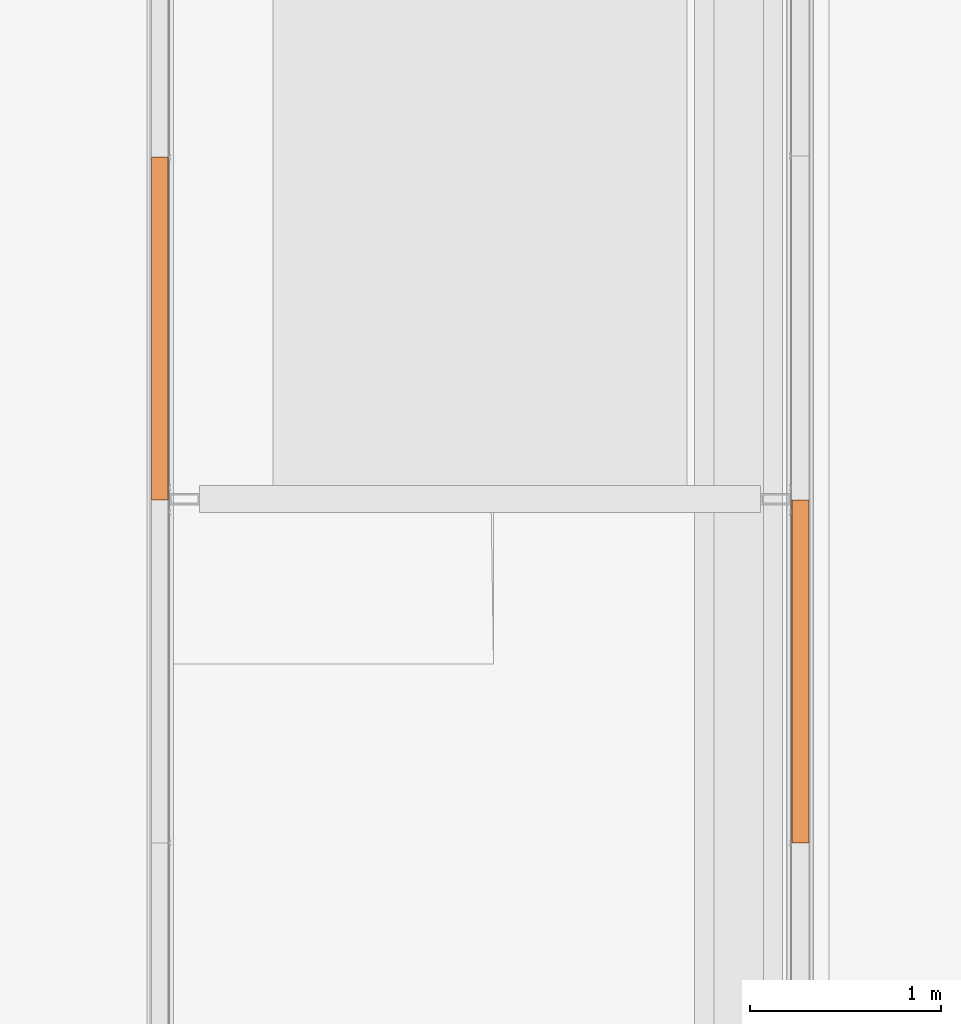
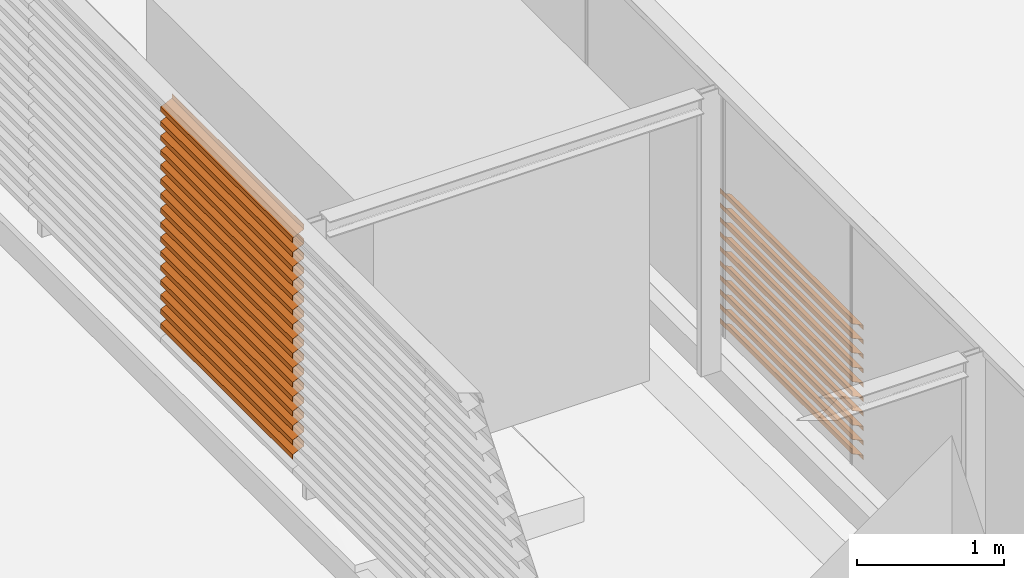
# One storey, part 30 of 32: 26 proxies.
"""IFC2X3 building model written with IfcOpenShell, lengths in millimetres."""

from ifc_helpers import new_model, entity, si_unit, converted_unit, derived_unit, direction, frame, origin, place, context, subcontext, project, spatial, faceted_brep, type_object, element, save


model = new_model("IFC2X3")

# Units and contexts
model_context = context("Model", 3, precision=0.01, world=origin(), true_north=direction((6.123031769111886e-17, 1.0)))
body_context = subcontext(model_context, "Body", "Model", "MODEL_VIEW")
ifc_project = project(units=[si_unit("LENGTHUNIT", "METRE", prefix="MILLI"), si_unit("AREAUNIT", "SQUARE_METRE"), si_unit("VOLUMEUNIT", "CUBIC_METRE"), converted_unit("PLANEANGLEUNIT", "DEGREE", entity("IfcRatioMeasure", 0.017453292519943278), si_unit("PLANEANGLEUNIT", "RADIAN"), dimensions=[0, 0, 0, 0, 0, 0, 0]), si_unit("MASSUNIT", "GRAM", prefix="KILO"), derived_unit("MASSDENSITYUNIT", [(si_unit("MASSUNIT", "GRAM", prefix="KILO"), 1), (si_unit("LENGTHUNIT", "METRE"), -3)]), derived_unit("IONCONCENTRATIONUNIT", [(si_unit("MASSUNIT", "GRAM", prefix="KILO"), 1), (si_unit("LENGTHUNIT", "METRE"), -3)]), derived_unit("MOMENTOFINERTIAUNIT", [(si_unit("LENGTHUNIT", "METRE"), 4)]), si_unit("TIMEUNIT", "SECOND"), si_unit("FREQUENCYUNIT", "HERTZ"), si_unit("THERMODYNAMICTEMPERATUREUNIT", "DEGREE_CELSIUS"), derived_unit("THERMALTRANSMITTANCEUNIT", [(si_unit("MASSUNIT", "GRAM", prefix="KILO"), 1), (si_unit("THERMODYNAMICTEMPERATUREUNIT", "KELVIN"), -1), (si_unit("TIMEUNIT", "SECOND"), -3)]), derived_unit("THERMALCONDUCTANCEUNIT", [(si_unit("MASSUNIT", "GRAM", prefix="KILO"), 1), (si_unit("THERMODYNAMICTEMPERATUREUNIT", "KELVIN"), -1), (si_unit("TIMEUNIT", "SECOND"), -3), (si_unit("LENGTHUNIT", "METRE"), 1)]), derived_unit("VOLUMETRICFLOWRATEUNIT", [(si_unit("LENGTHUNIT", "METRE"), 3), (si_unit("TIMEUNIT", "SECOND"), -1)]), derived_unit("MASSFLOWRATEUNIT", [(si_unit("MASSUNIT", "GRAM", prefix="KILO"), 1), (si_unit("TIMEUNIT", "SECOND"), -1)]), derived_unit("ROTATIONALFREQUENCYUNIT", [(si_unit("TIMEUNIT", "SECOND"), -1)]), si_unit("ELECTRICCURRENTUNIT", "AMPERE"), si_unit("ELECTRICVOLTAGEUNIT", "VOLT"), si_unit("POWERUNIT", "WATT"), si_unit("FORCEUNIT", "NEWTON", prefix="KILO"), si_unit("ILLUMINANCEUNIT", "LUX"), si_unit("LUMINOUSFLUXUNIT", "LUMEN"), si_unit("LUMINOUSINTENSITYUNIT", "CANDELA"), derived_unit("USERDEFINED", [(si_unit("MASSUNIT", "GRAM", prefix="KILO"), -1), (si_unit("LENGTHUNIT", "METRE"), -2), (si_unit("TIMEUNIT", "SECOND"), 3), (si_unit("LUMINOUSFLUXUNIT", "LUMEN"), 1)]), derived_unit("USERDEFINED", [(si_unit("MASSUNIT", "GRAM", prefix="KILO"), 1), (si_unit("TIMEUNIT", "SECOND"), -3), (si_unit("LENGTHUNIT", "METRE"), 3), (si_unit("ELECTRICCURRENTUNIT", "AMPERE"), -2)]), derived_unit("SOUNDPOWERUNIT", [(si_unit("MASSUNIT", "GRAM", prefix="KILO"), 1), (si_unit("TIMEUNIT", "SECOND"), -3), (si_unit("LENGTHUNIT", "METRE"), 2)]), derived_unit("SOUNDPRESSUREUNIT", [(si_unit("MASSUNIT", "GRAM", prefix="KILO"), 1), (si_unit("LENGTHUNIT", "METRE"), -1), (si_unit("TIMEUNIT", "SECOND"), -2)]), derived_unit("LINEARVELOCITYUNIT", [(si_unit("LENGTHUNIT", "METRE"), 1), (si_unit("TIMEUNIT", "SECOND"), -1)]), si_unit("PRESSUREUNIT", "PASCAL"), derived_unit("USERDEFINED", [(si_unit("MASSUNIT", "GRAM", prefix="KILO"), 1), (si_unit("LENGTHUNIT", "METRE"), -2), (si_unit("TIMEUNIT", "SECOND"), -2)]), derived_unit("LINEARFORCEUNIT", [(si_unit("MASSUNIT", "GRAM", prefix="KILO"), 1), (si_unit("TIMEUNIT", "SECOND"), -2)]), derived_unit("PLANARFORCEUNIT", [(si_unit("MASSUNIT", "GRAM", prefix="KILO"), 1), (si_unit("LENGTHUNIT", "METRE"), -1), (si_unit("TIMEUNIT", "SECOND"), -2)]), derived_unit("SPECIFICHEATCAPACITYUNIT", [(si_unit("THERMODYNAMICTEMPERATUREUNIT", "KELVIN"), -1), (si_unit("LENGTHUNIT", "METRE"), 2), (si_unit("TIMEUNIT", "SECOND"), -2)]), derived_unit("HEATINGVALUEUNIT", [(si_unit("LENGTHUNIT", "METRE"), 2), (si_unit("TIMEUNIT", "SECOND"), -2)]), derived_unit("VAPORPERMEABILITYUNIT", [(si_unit("LENGTHUNIT", "METRE"), -1), (si_unit("TIMEUNIT", "SECOND"), 1)]), derived_unit("DYNAMICVISCOSITYUNIT", [(si_unit("MASSUNIT", "GRAM", prefix="KILO"), 1), (si_unit("TIMEUNIT", "SECOND"), -1), (si_unit("LENGTHUNIT", "METRE"), -1)]), derived_unit("THERMALEXPANSIONCOEFFICIENTUNIT", [(si_unit("THERMODYNAMICTEMPERATUREUNIT", "KELVIN"), -1)]), derived_unit("MODULUSOFELASTICITYUNIT", [(si_unit("MASSUNIT", "GRAM", prefix="KILO"), 1), (si_unit("LENGTHUNIT", "METRE"), -1), (si_unit("TIMEUNIT", "SECOND"), -2)]), derived_unit("ISOTHERMALMOISTURECAPACITYUNIT", [(si_unit("LENGTHUNIT", "METRE"), 3), (si_unit("MASSUNIT", "GRAM", prefix="KILO"), -1)]), derived_unit("MOISTUREDIFFUSIVITYUNIT", [(si_unit("TIMEUNIT", "SECOND"), -1), (si_unit("LENGTHUNIT", "METRE"), 2)])], contexts=[model_context])

# Site, building, storey
site_placement = place(None, frame((0.0, 300.0, 0.0)))
site = spatial("IfcSite", under=ifc_project, at=site_placement, Name="<Kadastrale nummers>", CompositionType="ELEMENT")
building_placement = place(site_placement, origin())
building = spatial("IfcBuilding", under=site, at=building_placement, CompositionType="ELEMENT")
storey_placement = place(building_placement, frame((0.0, 0.0, 7150.000035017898)))
storey = spatial("IfcBuildingStorey", under=building, at=storey_placement, Name="02 tweede verdieping", CompositionType="ELEMENT", Elevation=7150.000035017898)

# Proxies
building_element_proxy_type_1 = type_object("IfcBuildingElementProxyType", Name="6286753", PredefinedType="NOTDEFINED")
proxy_1_placement = place(storey_placement, frame((41678.0, 37197.49999984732, 1580.0)))
element("IfcBuildingElementProxy", 1, at=proxy_1_placement, inside=storey, type_object=building_element_proxy_type_1, Name="6286753", context=body_context, shape_type="Brep", body=[
    faceted_brep([(90.0, 1797.5000001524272, 40.0), (90.0, 1797.5000001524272, 0.0), (88.0, 1797.5000001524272, 1.3490170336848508), (88.0, 1797.5000001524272, 38.725859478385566), (0.0, 1797.5000001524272, 79.7609333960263), (0.0, 1797.5000001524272, 120.0), (2.0, 1797.5000001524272, 120.0), (2.0, 1797.5000001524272, 81.03507391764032), (90.0, 0.0, 40.0), (2.0, 0.0, 81.0350739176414), (2.0, 0.0, 120.0), (0.0, 0.0, 120.0), (0.0, 0.0, 79.76093339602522), (88.0, 0.0, 38.72585947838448), (88.0, 0.0, 1.3490170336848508), (90.0, 0.0, 0.0)], [[[0, 1, 2, 3, 4, 5, 6, 7]], [[8, 9, 10, 11, 12, 13, 14, 15]], [[0, 7, 9, 8]], [[7, 6, 10, 9]], [[6, 5, 11, 10]], [[5, 4, 12, 11]], [[4, 3, 13, 12]], [[3, 2, 14, 13]], [[2, 1, 15, 14]], [[1, 0, 8, 15]]]),
])
building_element_proxy_type_2 = type_object("IfcBuildingElementProxyType", Name="6286754", PredefinedType="NOTDEFINED")
proxy_2_placement = place(storey_placement, frame((41678.0, 37197.49999984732, 1460.0)))
element("IfcBuildingElementProxy", 2, at=proxy_2_placement, inside=storey, type_object=building_element_proxy_type_2, Name="6286754", context=body_context, shape_type="Brep", body=[
    faceted_brep([(90.0, 1797.5000001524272, 40.0), (90.0, 1797.5000001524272, 0.0), (88.0, 1797.5000001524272, 1.3490170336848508), (88.0, 1797.5000001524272, 38.725859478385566), (0.0, 1797.5000001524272, 79.7609333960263), (0.0, 1797.5000001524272, 120.0), (2.0, 1797.5000001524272, 120.0), (2.0, 1797.5000001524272, 81.03507391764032), (90.0, 0.0, 40.0), (2.0, 0.0, 81.03507391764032), (2.0, 0.0, 120.0), (0.0, 0.0, 120.0), (0.0, 0.0, 79.76093339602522), (88.0, 0.0, 38.72585947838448), (88.0, 0.0, 1.3490170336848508), (90.0, 0.0, 0.0)], [[[0, 1, 2, 3, 4, 5, 6, 7]], [[8, 9, 10, 11, 12, 13, 14, 15]], [[0, 7, 9, 8]], [[7, 6, 10, 9]], [[6, 5, 11, 10]], [[5, 4, 12, 11]], [[4, 3, 13, 12]], [[3, 2, 14, 13]], [[2, 1, 15, 14]], [[1, 0, 8, 15]]]),
])
building_element_proxy_type_3 = type_object("IfcBuildingElementProxyType", Name="6286755", PredefinedType="NOTDEFINED")
proxy_3_placement = place(storey_placement, frame((41678.0, 37197.49999984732, 1340.0)))
element("IfcBuildingElementProxy", 3, at=proxy_3_placement, inside=storey, type_object=building_element_proxy_type_3, Name="6286755", context=body_context, shape_type="Brep", body=[
    faceted_brep([(90.0, 1797.5000001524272, 40.0), (90.0, 1797.5000001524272, 0.0), (88.0, 1797.5000001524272, 1.3490170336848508), (88.0, 1797.5000001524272, 38.725859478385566), (0.0, 1797.5000001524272, 79.7609333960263), (0.0, 1797.5000001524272, 120.0), (2.0, 1797.5000001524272, 120.0), (2.0, 1797.5000001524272, 81.03507391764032), (90.0, 0.0, 40.0), (2.0, 0.0, 81.0350739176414), (2.0, 0.0, 120.0), (0.0, 0.0, 120.0), (0.0, 0.0, 79.76093339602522), (88.0, 0.0, 38.72585947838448), (88.0, 0.0, 1.3490170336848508), (90.0, 0.0, 0.0)], [[[0, 1, 2, 3, 4, 5, 6, 7]], [[8, 9, 10, 11, 12, 13, 14, 15]], [[0, 7, 9, 8]], [[7, 6, 10, 9]], [[6, 5, 11, 10]], [[5, 4, 12, 11]], [[4, 3, 13, 12]], [[3, 2, 14, 13]], [[2, 1, 15, 14]], [[1, 0, 8, 15]]]),
])
building_element_proxy_type_4 = type_object("IfcBuildingElementProxyType", Name="6286756", PredefinedType="NOTDEFINED")
proxy_4_placement = place(storey_placement, frame((41678.0, 37197.49999984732, 1220.0)))
element("IfcBuildingElementProxy", 4, at=proxy_4_placement, inside=storey, type_object=building_element_proxy_type_4, Name="6286756", context=body_context, shape_type="Brep", body=[
    faceted_brep([(90.0, 1797.5000001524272, 40.0), (90.0, 1797.5000001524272, 0.0), (88.0, 1797.5000001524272, 1.3490170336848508), (88.0, 1797.5000001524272, 38.725859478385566), (0.0, 1797.5000001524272, 79.7609333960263), (0.0, 1797.5000001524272, 120.0), (2.0, 1797.5000001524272, 120.0), (2.0, 1797.5000001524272, 81.03507391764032), (90.0, 0.0, 40.0), (2.0, 0.0, 81.0350739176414), (2.0, 0.0, 120.0), (0.0, 0.0, 120.0), (0.0, 0.0, 79.76093339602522), (88.0, 0.0, 38.72585947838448), (88.0, 0.0, 1.3490170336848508), (90.0, 0.0, 0.0)], [[[0, 1, 2, 3, 4, 5, 6, 7]], [[8, 9, 10, 11, 12, 13, 14, 15]], [[0, 7, 9, 8]], [[7, 6, 10, 9]], [[6, 5, 11, 10]], [[5, 4, 12, 11]], [[4, 3, 13, 12]], [[3, 2, 14, 13]], [[2, 1, 15, 14]], [[1, 0, 8, 15]]]),
])
building_element_proxy_type_5 = type_object("IfcBuildingElementProxyType", Name="6286757", PredefinedType="NOTDEFINED")
proxy_5_placement = place(storey_placement, frame((41678.0, 37197.49999984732, 1100.0)))
element("IfcBuildingElementProxy", 5, at=proxy_5_placement, inside=storey, type_object=building_element_proxy_type_5, Name="6286757", context=body_context, shape_type="Brep", body=[
    faceted_brep([(90.0, 1797.5000001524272, 40.0), (90.0, 1797.5000001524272, 0.0), (88.0, 1797.5000001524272, 1.3490170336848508), (88.0, 1797.5000001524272, 38.725859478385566), (0.0, 1797.5000001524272, 79.7609333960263), (0.0, 1797.5000001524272, 120.0), (2.0, 1797.5000001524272, 120.0), (2.0, 1797.5000001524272, 81.03507391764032), (90.0, 0.0, 40.0), (2.0, 0.0, 81.03507391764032), (2.0, 0.0, 120.0), (0.0, 0.0, 120.0), (0.0, 0.0, 79.76093339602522), (88.0, 0.0, 38.72585947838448), (88.0, 0.0, 1.3490170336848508), (90.0, 0.0, 0.0)], [[[0, 1, 2, 3, 4, 5, 6, 7]], [[8, 9, 10, 11, 12, 13, 14, 15]], [[0, 7, 9, 8]], [[7, 6, 10, 9]], [[6, 5, 11, 10]], [[5, 4, 12, 11]], [[4, 3, 13, 12]], [[3, 2, 14, 13]], [[2, 1, 15, 14]], [[1, 0, 8, 15]]]),
])
building_element_proxy_type_6 = type_object("IfcBuildingElementProxyType", Name="6286758", PredefinedType="NOTDEFINED")
proxy_6_placement = place(storey_placement, frame((41678.0, 37197.49999984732, 980.0)))
element("IfcBuildingElementProxy", 6, at=proxy_6_placement, inside=storey, type_object=building_element_proxy_type_6, Name="6286758", context=body_context, shape_type="Brep", body=[
    faceted_brep([(90.0, 1797.5000001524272, 40.0), (90.0, 1797.5000001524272, 0.0), (88.0, 1797.5000001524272, 1.3490170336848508), (88.0, 1797.5000001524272, 38.725859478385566), (0.0, 1797.5000001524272, 79.7609333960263), (0.0, 1797.5000001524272, 120.0), (2.0, 1797.5000001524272, 120.0), (2.0, 1797.5000001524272, 81.03507391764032), (90.0, 0.0, 40.0), (2.0, 0.0, 81.0350739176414), (2.0, 0.0, 120.0), (0.0, 0.0, 120.0), (0.0, 0.0, 79.76093339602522), (88.0, 0.0, 38.72585947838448), (88.0, 0.0, 1.3490170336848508), (90.0, 0.0, 0.0)], [[[0, 1, 2, 3, 4, 5, 6, 7]], [[8, 9, 10, 11, 12, 13, 14, 15]], [[0, 7, 9, 8]], [[7, 6, 10, 9]], [[6, 5, 11, 10]], [[5, 4, 12, 11]], [[4, 3, 13, 12]], [[3, 2, 14, 13]], [[2, 1, 15, 14]], [[1, 0, 8, 15]]]),
])
building_element_proxy_type_7 = type_object("IfcBuildingElementProxyType", Name="6286759", PredefinedType="NOTDEFINED")
proxy_7_placement = place(storey_placement, frame((41678.0, 37197.49999984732, 860.0)))
element("IfcBuildingElementProxy", 7, at=proxy_7_placement, inside=storey, type_object=building_element_proxy_type_7, Name="6286759", context=body_context, shape_type="Brep", body=[
    faceted_brep([(90.0, 1797.5000001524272, 40.0), (90.0, 1797.5000001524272, 0.0), (88.0, 1797.5000001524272, 1.3490170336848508), (88.0, 1797.5000001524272, 38.725859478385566), (0.0, 1797.5000001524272, 79.7609333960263), (0.0, 1797.5000001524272, 120.0), (2.0, 1797.5000001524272, 120.0), (2.0, 1797.5000001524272, 81.03507391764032), (90.0, 0.0, 40.0), (2.0, 0.0, 81.03507391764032), (2.0, 0.0, 120.0), (0.0, 0.0, 120.0), (0.0, 0.0, 79.76093339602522), (88.0, 0.0, 38.72585947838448), (88.0, 0.0, 1.3490170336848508), (90.0, 0.0, 0.0)], [[[0, 1, 2, 3, 4, 5, 6, 7]], [[8, 9, 10, 11, 12, 13, 14, 15]], [[0, 7, 9, 8]], [[7, 6, 10, 9]], [[6, 5, 11, 10]], [[5, 4, 12, 11]], [[4, 3, 13, 12]], [[3, 2, 14, 13]], [[2, 1, 15, 14]], [[1, 0, 8, 15]]]),
])
building_element_proxy_type_8 = type_object("IfcBuildingElementProxyType", Name="6286760", PredefinedType="NOTDEFINED")
proxy_8_placement = place(storey_placement, frame((41678.0, 37197.49999984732, 740.0)))
element("IfcBuildingElementProxy", 8, at=proxy_8_placement, inside=storey, type_object=building_element_proxy_type_8, Name="6286760", context=body_context, shape_type="Brep", body=[
    faceted_brep([(90.0, 1797.5000001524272, 40.0), (90.0, 1797.5000001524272, 0.0), (88.0, 1797.5000001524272, 1.3490170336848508), (88.0, 1797.5000001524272, 38.725859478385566), (0.0, 1797.5000001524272, 79.7609333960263), (0.0, 1797.5000001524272, 120.0), (2.0, 1797.5000001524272, 120.0), (2.0, 1797.5000001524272, 81.03507391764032), (90.0, 0.0, 40.0), (2.0, 0.0, 81.0350739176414), (2.0, 0.0, 120.0), (0.0, 0.0, 120.0), (0.0, 0.0, 79.76093339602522), (88.0, 0.0, 38.72585947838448), (88.0, 0.0, 1.3490170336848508), (90.0, 0.0, 0.0)], [[[0, 1, 2, 3, 4, 5, 6, 7]], [[8, 9, 10, 11, 12, 13, 14, 15]], [[0, 7, 9, 8]], [[7, 6, 10, 9]], [[6, 5, 11, 10]], [[5, 4, 12, 11]], [[4, 3, 13, 12]], [[3, 2, 14, 13]], [[2, 1, 15, 14]], [[1, 0, 8, 15]]]),
])
building_element_proxy_type_9 = type_object("IfcBuildingElementProxyType", Name="6286761", PredefinedType="NOTDEFINED")
proxy_9_placement = place(storey_placement, frame((41678.0, 37197.49999984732, 620.0)))
element("IfcBuildingElementProxy", 9, at=proxy_9_placement, inside=storey, type_object=building_element_proxy_type_9, Name="6286761", context=body_context, shape_type="Brep", body=[
    faceted_brep([(90.0, 1797.5000001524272, 40.0), (90.0, 1797.5000001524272, 0.0), (88.0, 1797.5000001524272, 1.3490170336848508), (88.0, 1797.5000001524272, 38.725859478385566), (0.0, 1797.5000001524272, 79.7609333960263), (0.0, 1797.5000001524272, 120.0), (2.0, 1797.5000001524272, 120.0), (2.0, 1797.5000001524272, 81.03507391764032), (90.0, 0.0, 40.0), (2.0, 0.0, 81.0350739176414), (2.0, 0.0, 120.0), (0.0, 0.0, 120.0), (0.0, 0.0, 79.76093339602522), (88.0, 0.0, 38.72585947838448), (88.0, 0.0, 1.3490170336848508), (90.0, 0.0, 0.0)], [[[0, 1, 2, 3, 4, 5, 6, 7]], [[8, 9, 10, 11, 12, 13, 14, 15]], [[0, 7, 9, 8]], [[7, 6, 10, 9]], [[6, 5, 11, 10]], [[5, 4, 12, 11]], [[4, 3, 13, 12]], [[3, 2, 14, 13]], [[2, 1, 15, 14]], [[1, 0, 8, 15]]]),
])
building_element_proxy_type_10 = type_object("IfcBuildingElementProxyType", Name="6286762", PredefinedType="NOTDEFINED")
proxy_10_placement = place(storey_placement, frame((41678.0, 37197.49999984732, 500.0)))
element("IfcBuildingElementProxy", 10, at=proxy_10_placement, inside=storey, type_object=building_element_proxy_type_10, Name="6286762", context=body_context, shape_type="Brep", body=[
    faceted_brep([(90.0, 1797.5000001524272, 40.0), (90.0, 1797.5000001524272, 0.0), (88.0, 1797.5000001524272, 1.3490170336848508), (88.0, 1797.5000001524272, 38.725859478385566), (0.0, 1797.5000001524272, 79.7609333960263), (0.0, 1797.5000001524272, 120.0), (2.0, 1797.5000001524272, 120.0), (2.0, 1797.5000001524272, 81.03507391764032), (90.0, 0.0, 40.0), (2.0, 0.0, 81.03507391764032), (2.0, 0.0, 120.0), (0.0, 0.0, 120.0), (0.0, 0.0, 79.76093339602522), (88.0, 0.0, 38.72585947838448), (88.0, 0.0, 1.3490170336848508), (90.0, 0.0, 0.0)], [[[0, 1, 2, 3, 4, 5, 6, 7]], [[8, 9, 10, 11, 12, 13, 14, 15]], [[0, 7, 9, 8]], [[7, 6, 10, 9]], [[6, 5, 11, 10]], [[5, 4, 12, 11]], [[4, 3, 13, 12]], [[3, 2, 14, 13]], [[2, 1, 15, 14]], [[1, 0, 8, 15]]]),
])
building_element_proxy_type_11 = type_object("IfcBuildingElementProxyType", Name="6287223", PredefinedType="NOTDEFINED")
proxy_11_placement = place(storey_placement, frame((38322.0, 38995.0, 2420.0)))
element("IfcBuildingElementProxy", 11, at=proxy_11_placement, inside=storey, type_object=building_element_proxy_type_11, Name="6287223", context=body_context, shape_type="Brep", body=[
    faceted_brep([(0.0, 0.0, 40.0), (0.0, 0.0, 0.0), (2.0, 0.0, 1.3490170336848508), (2.0, 0.0, 38.725859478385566), (90.0, 0.0, 79.7609333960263), (90.0, 0.0, 120.0), (88.0, 0.0, 120.0), (88.0, 0.0, 81.03507391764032), (0.0, 1797.5000001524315, 40.0), (88.0, 1797.5000001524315, 81.0350739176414), (88.0, 1797.5000001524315, 120.0), (90.0, 1797.5000001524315, 120.0), (90.0, 1797.5000001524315, 79.76093339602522), (2.0, 1797.5000001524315, 38.72585947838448), (2.0, 1797.5000001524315, 1.3490170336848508), (0.0, 1797.5000001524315, 0.0)], [[[0, 1, 2, 3, 4, 5, 6, 7]], [[8, 9, 10, 11, 12, 13, 14, 15]], [[0, 7, 9, 8]], [[7, 6, 10, 9]], [[6, 5, 11, 10]], [[5, 4, 12, 11]], [[4, 3, 13, 12]], [[3, 2, 14, 13]], [[2, 1, 15, 14]], [[1, 0, 8, 15]]]),
])
building_element_proxy_type_12 = type_object("IfcBuildingElementProxyType", Name="6287224", PredefinedType="NOTDEFINED")
proxy_12_placement = place(storey_placement, frame((38322.0, 38995.0, 2300.0)))
element("IfcBuildingElementProxy", 12, at=proxy_12_placement, inside=storey, type_object=building_element_proxy_type_12, Name="6287224", context=body_context, shape_type="Brep", body=[
    faceted_brep([(0.0, 0.0, 40.0), (0.0, 0.0, 0.0), (2.0, 0.0, 1.3490170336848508), (2.0, 0.0, 38.725859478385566), (90.0, 0.0, 79.7609333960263), (90.0, 0.0, 120.0), (88.0, 0.0, 120.0), (88.0, 0.0, 81.03507391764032), (0.0, 1797.5000001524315, 40.0), (88.0, 1797.5000001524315, 81.03507391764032), (88.0, 1797.5000001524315, 120.0), (90.0, 1797.5000001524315, 120.0), (90.0, 1797.5000001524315, 79.76093339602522), (2.0, 1797.5000001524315, 38.72585947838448), (2.0, 1797.5000001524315, 1.3490170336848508), (0.0, 1797.5000001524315, 0.0)], [[[0, 1, 2, 3, 4, 5, 6, 7]], [[8, 9, 10, 11, 12, 13, 14, 15]], [[0, 7, 9, 8]], [[7, 6, 10, 9]], [[6, 5, 11, 10]], [[5, 4, 12, 11]], [[4, 3, 13, 12]], [[3, 2, 14, 13]], [[2, 1, 15, 14]], [[1, 0, 8, 15]]]),
])
building_element_proxy_type_13 = type_object("IfcBuildingElementProxyType", Name="6287225", PredefinedType="NOTDEFINED")
proxy_13_placement = place(storey_placement, frame((38322.0, 38995.0, 2180.0)))
element("IfcBuildingElementProxy", 13, at=proxy_13_placement, inside=storey, type_object=building_element_proxy_type_13, Name="6287225", context=body_context, shape_type="Brep", body=[
    faceted_brep([(0.0, 0.0, 40.0), (0.0, 0.0, 0.0), (2.0, 0.0, 1.3490170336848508), (2.0, 0.0, 38.725859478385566), (90.0, 0.0, 79.7609333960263), (90.0, 0.0, 120.0), (88.0, 0.0, 120.0), (88.0, 0.0, 81.03507391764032), (0.0, 1797.5000001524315, 40.0), (88.0, 1797.5000001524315, 81.0350739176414), (88.0, 1797.5000001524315, 120.0), (90.0, 1797.5000001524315, 120.0), (90.0, 1797.5000001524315, 79.76093339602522), (2.0, 1797.5000001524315, 38.72585947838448), (2.0, 1797.5000001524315, 1.3490170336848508), (0.0, 1797.5000001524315, 0.0)], [[[0, 1, 2, 3, 4, 5, 6, 7]], [[8, 9, 10, 11, 12, 13, 14, 15]], [[0, 7, 9, 8]], [[7, 6, 10, 9]], [[6, 5, 11, 10]], [[5, 4, 12, 11]], [[4, 3, 13, 12]], [[3, 2, 14, 13]], [[2, 1, 15, 14]], [[1, 0, 8, 15]]]),
])
building_element_proxy_type_14 = type_object("IfcBuildingElementProxyType", Name="6287226", PredefinedType="NOTDEFINED")
proxy_14_placement = place(storey_placement, frame((38322.0, 38995.0, 2060.0)))
element("IfcBuildingElementProxy", 14, at=proxy_14_placement, inside=storey, type_object=building_element_proxy_type_14, Name="6287226", context=body_context, shape_type="Brep", body=[
    faceted_brep([(0.0, 0.0, 40.0), (0.0, 0.0, 0.0), (2.0, 0.0, 1.3490170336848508), (2.0, 0.0, 38.725859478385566), (90.0, 0.0, 79.7609333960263), (90.0, 0.0, 120.0), (88.0, 0.0, 120.0), (88.0, 0.0, 81.03507391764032), (0.0, 1797.5000001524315, 40.0), (88.0, 1797.5000001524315, 81.0350739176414), (88.0, 1797.5000001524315, 120.0), (90.0, 1797.5000001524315, 120.0), (90.0, 1797.5000001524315, 79.76093339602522), (2.0, 1797.5000001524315, 38.72585947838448), (2.0, 1797.5000001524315, 1.3490170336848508), (0.0, 1797.5000001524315, 0.0)], [[[0, 1, 2, 3, 4, 5, 6, 7]], [[8, 9, 10, 11, 12, 13, 14, 15]], [[0, 7, 9, 8]], [[7, 6, 10, 9]], [[6, 5, 11, 10]], [[5, 4, 12, 11]], [[4, 3, 13, 12]], [[3, 2, 14, 13]], [[2, 1, 15, 14]], [[1, 0, 8, 15]]]),
])
building_element_proxy_type_15 = type_object("IfcBuildingElementProxyType", Name="6287227", PredefinedType="NOTDEFINED")
proxy_15_placement = place(storey_placement, frame((38322.0, 38995.0, 1940.0)))
element("IfcBuildingElementProxy", 15, at=proxy_15_placement, inside=storey, type_object=building_element_proxy_type_15, Name="6287227", context=body_context, shape_type="Brep", body=[
    faceted_brep([(0.0, 0.0, 40.0), (0.0, 0.0, 0.0), (2.0, 0.0, 1.3490170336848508), (2.0, 0.0, 38.725859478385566), (90.0, 0.0, 79.7609333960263), (90.0, 0.0, 120.0), (88.0, 0.0, 120.0), (88.0, 0.0, 81.03507391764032), (0.0, 1797.5000001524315, 40.0), (88.0, 1797.5000001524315, 81.0350739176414), (88.0, 1797.5000001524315, 120.0), (90.0, 1797.5000001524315, 120.0), (90.0, 1797.5000001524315, 79.76093339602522), (2.0, 1797.5000001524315, 38.72585947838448), (2.0, 1797.5000001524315, 1.3490170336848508), (0.0, 1797.5000001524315, 0.0)], [[[0, 1, 2, 3, 4, 5, 6, 7]], [[8, 9, 10, 11, 12, 13, 14, 15]], [[0, 7, 9, 8]], [[7, 6, 10, 9]], [[6, 5, 11, 10]], [[5, 4, 12, 11]], [[4, 3, 13, 12]], [[3, 2, 14, 13]], [[2, 1, 15, 14]], [[1, 0, 8, 15]]]),
])
building_element_proxy_type_16 = type_object("IfcBuildingElementProxyType", Name="6287228", PredefinedType="NOTDEFINED")
proxy_16_placement = place(storey_placement, frame((38322.0, 38995.0, 1820.0)))
element("IfcBuildingElementProxy", 16, at=proxy_16_placement, inside=storey, type_object=building_element_proxy_type_16, Name="6287228", context=body_context, shape_type="Brep", body=[
    faceted_brep([(0.0, 0.0, 40.0), (0.0, 0.0, 0.0), (2.0, 0.0, 1.3490170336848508), (2.0, 0.0, 38.725859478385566), (90.0, 0.0, 79.7609333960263), (90.0, 0.0, 120.0), (88.0, 0.0, 120.0), (88.0, 0.0, 81.03507391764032), (0.0, 1797.5000001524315, 40.0), (88.0, 1797.5000001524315, 81.0350739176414), (88.0, 1797.5000001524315, 120.0), (90.0, 1797.5000001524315, 120.0), (90.0, 1797.5000001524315, 79.76093339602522), (2.0, 1797.5000001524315, 38.72585947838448), (2.0, 1797.5000001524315, 1.3490170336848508), (0.0, 1797.5000001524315, 0.0)], [[[0, 1, 2, 3, 4, 5, 6, 7]], [[8, 9, 10, 11, 12, 13, 14, 15]], [[0, 7, 9, 8]], [[7, 6, 10, 9]], [[6, 5, 11, 10]], [[5, 4, 12, 11]], [[4, 3, 13, 12]], [[3, 2, 14, 13]], [[2, 1, 15, 14]], [[1, 0, 8, 15]]]),
])
building_element_proxy_type_17 = type_object("IfcBuildingElementProxyType", Name="6287229", PredefinedType="NOTDEFINED")
proxy_17_placement = place(storey_placement, frame((38322.0, 38995.0, 1700.0)))
element("IfcBuildingElementProxy", 17, at=proxy_17_placement, inside=storey, type_object=building_element_proxy_type_17, Name="6287229", context=body_context, shape_type="Brep", body=[
    faceted_brep([(0.0, 0.0, 40.0), (0.0, 0.0, 0.0), (2.0, 0.0, 1.3490170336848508), (2.0, 0.0, 38.725859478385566), (90.0, 0.0, 79.7609333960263), (90.0, 0.0, 120.0), (88.0, 0.0, 120.0), (88.0, 0.0, 81.03507391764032), (0.0, 1797.5000001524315, 40.0), (88.0, 1797.5000001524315, 81.03507391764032), (88.0, 1797.5000001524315, 120.0), (90.0, 1797.5000001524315, 120.0), (90.0, 1797.5000001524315, 79.76093339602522), (2.0, 1797.5000001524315, 38.72585947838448), (2.0, 1797.5000001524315, 1.3490170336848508), (0.0, 1797.5000001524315, 0.0)], [[[0, 1, 2, 3, 4, 5, 6, 7]], [[8, 9, 10, 11, 12, 13, 14, 15]], [[0, 7, 9, 8]], [[7, 6, 10, 9]], [[6, 5, 11, 10]], [[5, 4, 12, 11]], [[4, 3, 13, 12]], [[3, 2, 14, 13]], [[2, 1, 15, 14]], [[1, 0, 8, 15]]]),
])
building_element_proxy_type_18 = type_object("IfcBuildingElementProxyType", Name="6287230", PredefinedType="NOTDEFINED")
proxy_18_placement = place(storey_placement, frame((38322.0, 38995.0, 1580.0)))
element("IfcBuildingElementProxy", 18, at=proxy_18_placement, inside=storey, type_object=building_element_proxy_type_18, Name="6287230", context=body_context, shape_type="Brep", body=[
    faceted_brep([(0.0, 0.0, 40.0), (0.0, 0.0, 0.0), (2.0, 0.0, 1.3490170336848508), (2.0, 0.0, 38.725859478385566), (90.0, 0.0, 79.7609333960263), (90.0, 0.0, 120.0), (88.0, 0.0, 120.0), (88.0, 0.0, 81.03507391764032), (0.0, 1797.5000001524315, 40.0), (88.0, 1797.5000001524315, 81.0350739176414), (88.0, 1797.5000001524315, 120.0), (90.0, 1797.5000001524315, 120.0), (90.0, 1797.5000001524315, 79.76093339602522), (2.0, 1797.5000001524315, 38.72585947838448), (2.0, 1797.5000001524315, 1.3490170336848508), (0.0, 1797.5000001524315, 0.0)], [[[0, 1, 2, 3, 4, 5, 6, 7]], [[8, 9, 10, 11, 12, 13, 14, 15]], [[0, 7, 9, 8]], [[7, 6, 10, 9]], [[6, 5, 11, 10]], [[5, 4, 12, 11]], [[4, 3, 13, 12]], [[3, 2, 14, 13]], [[2, 1, 15, 14]], [[1, 0, 8, 15]]]),
])
building_element_proxy_type_19 = type_object("IfcBuildingElementProxyType", Name="6287231", PredefinedType="NOTDEFINED")
proxy_19_placement = place(storey_placement, frame((38322.0, 38995.0, 1460.0)))
element("IfcBuildingElementProxy", 19, at=proxy_19_placement, inside=storey, type_object=building_element_proxy_type_19, Name="6287231", context=body_context, shape_type="Brep", body=[
    faceted_brep([(0.0, 0.0, 40.0), (0.0, 0.0, 0.0), (2.0, 0.0, 1.3490170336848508), (2.0, 0.0, 38.725859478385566), (90.0, 0.0, 79.7609333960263), (90.0, 0.0, 120.0), (88.0, 0.0, 120.0), (88.0, 0.0, 81.03507391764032), (0.0, 1797.5000001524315, 40.0), (88.0, 1797.5000001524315, 81.03507391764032), (88.0, 1797.5000001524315, 120.0), (90.0, 1797.5000001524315, 120.0), (90.0, 1797.5000001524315, 79.76093339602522), (2.0, 1797.5000001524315, 38.72585947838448), (2.0, 1797.5000001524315, 1.3490170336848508), (0.0, 1797.5000001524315, 0.0)], [[[0, 1, 2, 3, 4, 5, 6, 7]], [[8, 9, 10, 11, 12, 13, 14, 15]], [[0, 7, 9, 8]], [[7, 6, 10, 9]], [[6, 5, 11, 10]], [[5, 4, 12, 11]], [[4, 3, 13, 12]], [[3, 2, 14, 13]], [[2, 1, 15, 14]], [[1, 0, 8, 15]]]),
])
building_element_proxy_type_20 = type_object("IfcBuildingElementProxyType", Name="6287232", PredefinedType="NOTDEFINED")
proxy_20_placement = place(storey_placement, frame((38322.0, 38995.0, 1340.0)))
element("IfcBuildingElementProxy", 20, at=proxy_20_placement, inside=storey, type_object=building_element_proxy_type_20, Name="6287232", context=body_context, shape_type="Brep", body=[
    faceted_brep([(0.0, 0.0, 40.0), (0.0, 0.0, 0.0), (2.0, 0.0, 1.3490170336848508), (2.0, 0.0, 38.725859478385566), (90.0, 0.0, 79.7609333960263), (90.0, 0.0, 120.0), (88.0, 0.0, 120.0), (88.0, 0.0, 81.03507391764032), (0.0, 1797.5000001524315, 40.0), (88.0, 1797.5000001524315, 81.0350739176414), (88.0, 1797.5000001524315, 120.0), (90.0, 1797.5000001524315, 120.0), (90.0, 1797.5000001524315, 79.76093339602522), (2.0, 1797.5000001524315, 38.72585947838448), (2.0, 1797.5000001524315, 1.3490170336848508), (0.0, 1797.5000001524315, 0.0)], [[[0, 1, 2, 3, 4, 5, 6, 7]], [[8, 9, 10, 11, 12, 13, 14, 15]], [[0, 7, 9, 8]], [[7, 6, 10, 9]], [[6, 5, 11, 10]], [[5, 4, 12, 11]], [[4, 3, 13, 12]], [[3, 2, 14, 13]], [[2, 1, 15, 14]], [[1, 0, 8, 15]]]),
])
building_element_proxy_type_21 = type_object("IfcBuildingElementProxyType", Name="6287233", PredefinedType="NOTDEFINED")
proxy_21_placement = place(storey_placement, frame((38322.0, 38995.0, 1220.0)))
element("IfcBuildingElementProxy", 21, at=proxy_21_placement, inside=storey, type_object=building_element_proxy_type_21, Name="6287233", context=body_context, shape_type="Brep", body=[
    faceted_brep([(0.0, 0.0, 40.0), (0.0, 0.0, 0.0), (2.0, 0.0, 1.3490170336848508), (2.0, 0.0, 38.725859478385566), (90.0, 0.0, 79.7609333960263), (90.0, 0.0, 120.0), (88.0, 0.0, 120.0), (88.0, 0.0, 81.03507391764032), (0.0, 1797.5000001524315, 40.0), (88.0, 1797.5000001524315, 81.0350739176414), (88.0, 1797.5000001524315, 120.0), (90.0, 1797.5000001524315, 120.0), (90.0, 1797.5000001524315, 79.76093339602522), (2.0, 1797.5000001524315, 38.72585947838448), (2.0, 1797.5000001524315, 1.3490170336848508), (0.0, 1797.5000001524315, 0.0)], [[[0, 1, 2, 3, 4, 5, 6, 7]], [[8, 9, 10, 11, 12, 13, 14, 15]], [[0, 7, 9, 8]], [[7, 6, 10, 9]], [[6, 5, 11, 10]], [[5, 4, 12, 11]], [[4, 3, 13, 12]], [[3, 2, 14, 13]], [[2, 1, 15, 14]], [[1, 0, 8, 15]]]),
])
building_element_proxy_type_22 = type_object("IfcBuildingElementProxyType", Name="6287234", PredefinedType="NOTDEFINED")
proxy_22_placement = place(storey_placement, frame((38322.0, 38995.0, 1100.0)))
element("IfcBuildingElementProxy", 22, at=proxy_22_placement, inside=storey, type_object=building_element_proxy_type_22, Name="6287234", context=body_context, shape_type="Brep", body=[
    faceted_brep([(0.0, 0.0, 40.0), (0.0, 0.0, 0.0), (2.0, 0.0, 1.3490170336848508), (2.0, 0.0, 38.725859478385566), (90.0, 0.0, 79.7609333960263), (90.0, 0.0, 120.0), (88.0, 0.0, 120.0), (88.0, 0.0, 81.03507391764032), (0.0, 1797.5000001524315, 40.0), (88.0, 1797.5000001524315, 81.03507391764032), (88.0, 1797.5000001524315, 120.0), (90.0, 1797.5000001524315, 120.0), (90.0, 1797.5000001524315, 79.76093339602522), (2.0, 1797.5000001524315, 38.72585947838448), (2.0, 1797.5000001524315, 1.3490170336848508), (0.0, 1797.5000001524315, 0.0)], [[[0, 1, 2, 3, 4, 5, 6, 7]], [[8, 9, 10, 11, 12, 13, 14, 15]], [[0, 7, 9, 8]], [[7, 6, 10, 9]], [[6, 5, 11, 10]], [[5, 4, 12, 11]], [[4, 3, 13, 12]], [[3, 2, 14, 13]], [[2, 1, 15, 14]], [[1, 0, 8, 15]]]),
])
building_element_proxy_type_23 = type_object("IfcBuildingElementProxyType", Name="6287235", PredefinedType="NOTDEFINED")
proxy_23_placement = place(storey_placement, frame((38322.0, 38995.0, 980.0)))
element("IfcBuildingElementProxy", 23, at=proxy_23_placement, inside=storey, type_object=building_element_proxy_type_23, Name="6287235", context=body_context, shape_type="Brep", body=[
    faceted_brep([(0.0, 0.0, 40.0), (0.0, 0.0, 0.0), (2.0, 0.0, 1.3490170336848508), (2.0, 0.0, 38.725859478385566), (90.0, 0.0, 79.7609333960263), (90.0, 0.0, 120.0), (88.0, 0.0, 120.0), (88.0, 0.0, 81.03507391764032), (0.0, 1797.5000001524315, 40.0), (88.0, 1797.5000001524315, 81.0350739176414), (88.0, 1797.5000001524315, 120.0), (90.0, 1797.5000001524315, 120.0), (90.0, 1797.5000001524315, 79.76093339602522), (2.0, 1797.5000001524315, 38.72585947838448), (2.0, 1797.5000001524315, 1.3490170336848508), (0.0, 1797.5000001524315, 0.0)], [[[0, 1, 2, 3, 4, 5, 6, 7]], [[8, 9, 10, 11, 12, 13, 14, 15]], [[0, 7, 9, 8]], [[7, 6, 10, 9]], [[6, 5, 11, 10]], [[5, 4, 12, 11]], [[4, 3, 13, 12]], [[3, 2, 14, 13]], [[2, 1, 15, 14]], [[1, 0, 8, 15]]]),
])
building_element_proxy_type_24 = type_object("IfcBuildingElementProxyType", Name="6287236", PredefinedType="NOTDEFINED")
proxy_24_placement = place(storey_placement, frame((38322.0, 38995.0, 860.0)))
element("IfcBuildingElementProxy", 24, at=proxy_24_placement, inside=storey, type_object=building_element_proxy_type_24, Name="6287236", context=body_context, shape_type="Brep", body=[
    faceted_brep([(0.0, 0.0, 40.0), (0.0, 0.0, 0.0), (2.0, 0.0, 1.3490170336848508), (2.0, 0.0, 38.725859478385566), (90.0, 0.0, 79.7609333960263), (90.0, 0.0, 120.0), (88.0, 0.0, 120.0), (88.0, 0.0, 81.03507391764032), (0.0, 1797.5000001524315, 40.0), (88.0, 1797.5000001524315, 81.03507391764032), (88.0, 1797.5000001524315, 120.0), (90.0, 1797.5000001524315, 120.0), (90.0, 1797.5000001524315, 79.76093339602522), (2.0, 1797.5000001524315, 38.72585947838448), (2.0, 1797.5000001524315, 1.3490170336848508), (0.0, 1797.5000001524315, 0.0)], [[[0, 1, 2, 3, 4, 5, 6, 7]], [[8, 9, 10, 11, 12, 13, 14, 15]], [[0, 7, 9, 8]], [[7, 6, 10, 9]], [[6, 5, 11, 10]], [[5, 4, 12, 11]], [[4, 3, 13, 12]], [[3, 2, 14, 13]], [[2, 1, 15, 14]], [[1, 0, 8, 15]]]),
])
building_element_proxy_type_25 = type_object("IfcBuildingElementProxyType", Name="6287237", PredefinedType="NOTDEFINED")
proxy_25_placement = place(storey_placement, frame((38322.0, 38995.0, 740.0)))
element("IfcBuildingElementProxy", 25, at=proxy_25_placement, inside=storey, type_object=building_element_proxy_type_25, Name="6287237", context=body_context, shape_type="Brep", body=[
    faceted_brep([(0.0, 0.0, 40.0), (0.0, 0.0, 0.0), (2.0, 0.0, 1.3490170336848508), (2.0, 0.0, 38.725859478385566), (90.0, 0.0, 79.7609333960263), (90.0, 0.0, 120.0), (88.0, 0.0, 120.0), (88.0, 0.0, 81.03507391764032), (0.0, 1797.5000001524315, 40.0), (88.0, 1797.5000001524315, 81.0350739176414), (88.0, 1797.5000001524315, 120.0), (90.0, 1797.5000001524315, 120.0), (90.0, 1797.5000001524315, 79.76093339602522), (2.0, 1797.5000001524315, 38.72585947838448), (2.0, 1797.5000001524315, 1.3490170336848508), (0.0, 1797.5000001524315, 0.0)], [[[0, 1, 2, 3, 4, 5, 6, 7]], [[8, 9, 10, 11, 12, 13, 14, 15]], [[0, 7, 9, 8]], [[7, 6, 10, 9]], [[6, 5, 11, 10]], [[5, 4, 12, 11]], [[4, 3, 13, 12]], [[3, 2, 14, 13]], [[2, 1, 15, 14]], [[1, 0, 8, 15]]]),
])
building_element_proxy_type_26 = type_object("IfcBuildingElementProxyType", Name="6287238", PredefinedType="NOTDEFINED")
proxy_26_placement = place(storey_placement, frame((38322.0, 38995.0, 620.0)))
element("IfcBuildingElementProxy", 26, at=proxy_26_placement, inside=storey, type_object=building_element_proxy_type_26, Name="6287238", context=body_context, shape_type="Brep", body=[
    faceted_brep([(0.0, 0.0, 40.0), (0.0, 0.0, 0.0), (2.0, 0.0, 1.3490170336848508), (2.0, 0.0, 38.725859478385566), (90.0, 0.0, 79.7609333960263), (90.0, 0.0, 120.0), (88.0, 0.0, 120.0), (88.0, 0.0, 81.03507391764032), (0.0, 1797.5000001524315, 40.0), (88.0, 1797.5000001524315, 81.0350739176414), (88.0, 1797.5000001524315, 120.0), (90.0, 1797.5000001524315, 120.0), (90.0, 1797.5000001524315, 79.76093339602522), (2.0, 1797.5000001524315, 38.72585947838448), (2.0, 1797.5000001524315, 1.3490170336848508), (0.0, 1797.5000001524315, 0.0)], [[[0, 1, 2, 3, 4, 5, 6, 7]], [[8, 9, 10, 11, 12, 13, 14, 15]], [[0, 7, 9, 8]], [[7, 6, 10, 9]], [[6, 5, 11, 10]], [[5, 4, 12, 11]], [[4, 3, 13, 12]], [[3, 2, 14, 13]], [[2, 1, 15, 14]], [[1, 0, 8, 15]]]),
])

save(model, "model.ifc")
